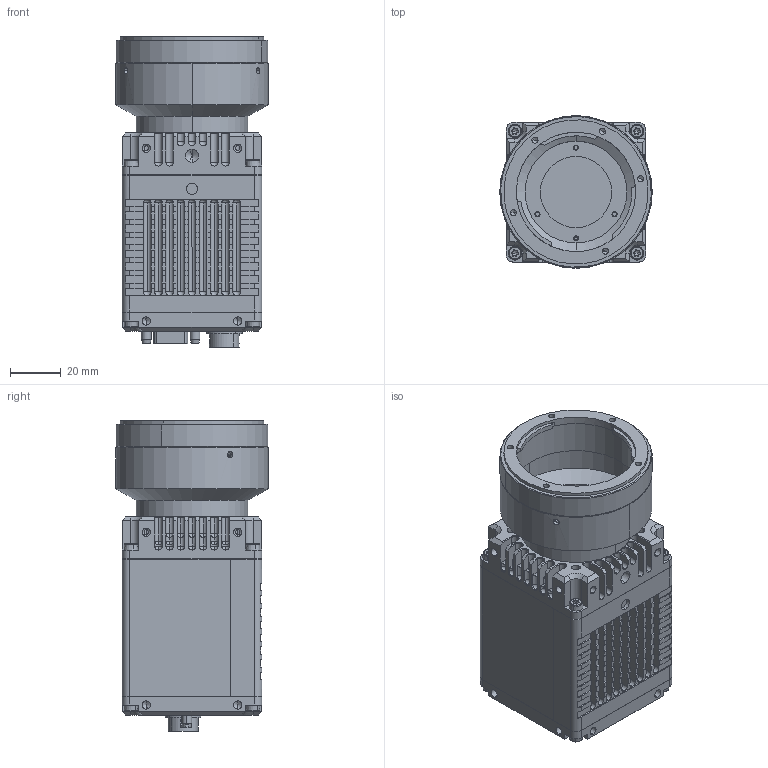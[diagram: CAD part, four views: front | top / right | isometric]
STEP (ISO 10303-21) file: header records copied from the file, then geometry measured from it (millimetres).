
FILE_DESCRIPTION (( 'STEP AP214' ), '1' );
FILE_NAME ('4168001_Goldeye CL-032 SWIR TEC1 F-Mount (F-Mount Chunghwa 640x512).STEP', '2023-07-27T12:42:42', ( '' ), ( '' ), 'SwSTEP 2.0', 'SolidWorks 2021', '' );
FILE_SCHEMA (( 'AUTOMOTIVE_DESIGN' ));
Length unit declared in the file: millimetre
Products named in the file (1): 4168001_Goldeye CL-032 SWIR TEC1 F-Mount (F-Mount Chunghwa 640x512)
Bounding box: 60 x 60 x 122.14 mm (x, y, z)
Surface area: 96005.3 mm2 (no closed solid volume)
Topology: 0 solids, 50 shells, 3111 faces, 8188 edges, 5153 vertices
Faces by surface type: plane 1371, cylinder 976, cone 304, bspline 297, sphere 98, torus 65
Entity records: 137976 total; most frequent: CARTESIAN_POINT 28588, ORIENTED_EDGE 15660, DIRECTION 14894, EDGE_CURVE 7980, VERTEX_POINT 5139, AXIS2_PLACEMENT_3D 5007, LINE 4880, VECTOR 4880
